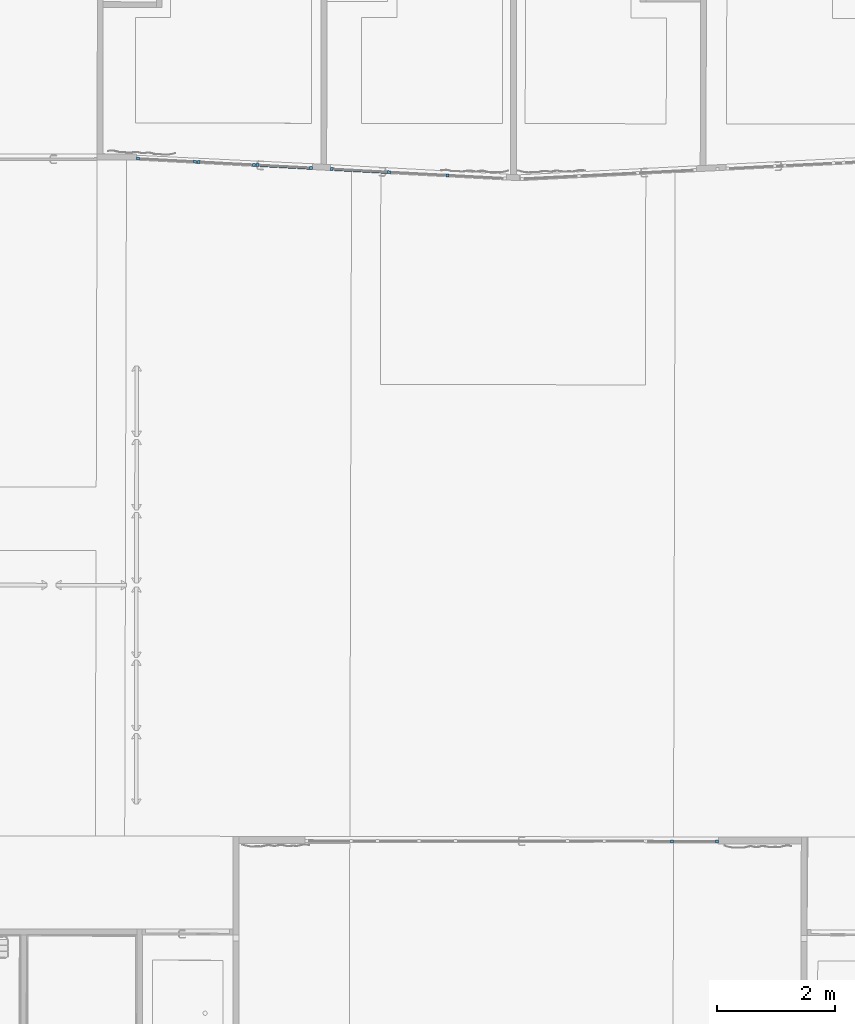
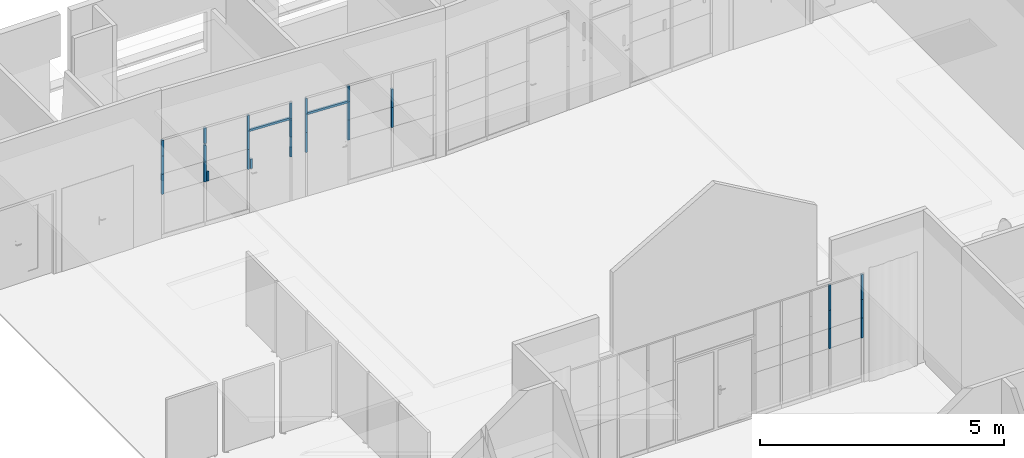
# One storey, part 4 of 43: 33 members, 3 elements without a shape of their own.
"""IFC2X3 building model written with IfcOpenShell, lengths in metres."""

from ifc_helpers import new_model, entity, si_unit, converted_unit, derived_unit, direction, frame, frame_2d, origin, origin_2d_with_axis, place, context, subcontext, project, spatial, rectangle, extrude, source, transform, mapped, material, type_object, type_shapes, element, aggregate, save


model = new_model("IFC2X3")

# Units and contexts
model_context = context("Model", 3, precision=1e-05, world=origin(), true_north=direction((6.123233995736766e-17, 1.0)))
body_context = subcontext(model_context, "Body", "Model", "MODEL_VIEW")
ifc_project = project(units=[si_unit("LENGTHUNIT", "METRE"), si_unit("AREAUNIT", "SQUARE_METRE"), converted_unit("PLANEANGLEUNIT", "DEGREE", entity("IfcPlaneAngleMeasure", 0.017453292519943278), si_unit("PLANEANGLEUNIT", "RADIAN"), dimensions=[0, 0, 0, 0, 0, 0, 0]), derived_unit("THERMALTRANSMITTANCEUNIT", [(si_unit("MASSUNIT", "GRAM", prefix="KILO"), 1), (si_unit("THERMODYNAMICTEMPERATUREUNIT", "KELVIN"), -1), (si_unit("TIMEUNIT", "SECOND"), -3)])], contexts=[model_context])

# Site, building, storey
site_placement = place(None, frame((1253.6752467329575, 2072.143113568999, 91.49999999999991), z_axis=(0.0, 0.0, 1.0), x_axis=(0.7237211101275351, 0.6900925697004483, 0.0)))
site = spatial("IfcSite", under=ifc_project, at=site_placement, Name="Surface", CompositionType="ELEMENT")
building_placement = place(site_placement, origin())
building = spatial("IfcBuilding", under=site, at=building_placement, CompositionType="ELEMENT")
storey_placement = place(building_placement, frame((0.0, 0.0, -4.629999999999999)))
storey = spatial("IfcBuildingStorey", under=building, at=storey_placement, Name="rez de rue -1.10m", CompositionType="ELEMENT", Elevation=-4.629999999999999)

# Curtain wall, members
curtain_wall_type = type_object("IfcCurtainWallType", Name="Mur-rideau:Menuiserie Int", PredefinedType="NOTDEFINED")
curtain_wall_1_placement = place(storey_placement, frame((0.0, 0.0, 4.629999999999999)))
curtain_wall_1 = element("IfcCurtainWall", 1, at=curtain_wall_1_placement, inside=storey, type_object=curtain_wall_type, Name="Mur-rideau:Menuiserie Int", ObjectType="Mur-rideau:Menuiserie Int")
ifc_material_1 = material(Name="OMD_Bois Men Int anthracite")
member_type_1 = type_object("IfcMemberType", Name="Meneau rectangulaire:50x50 Int anthracite", PredefinedType="MULLION", material=ifc_material_1)
shared_shape_1 = source(origin(), body_context, "Body", "SweptSolid", [
    extrude(rectangle(XDim=0.05, YDim=0.05000000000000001, at=origin_2d_with_axis()), frame((-0.025, 0.0, -0.6300000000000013), z_axis=(0.0, 0.0, 1.0), x_axis=(-1.0, 0.0, 0.0)), (0.0, 0.0, 1.0), 0.6300000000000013),
])
type_shapes(member_type_1, [shared_shape_1])
member_1_placement = place(curtain_wall_1_placement, frame((175.6536104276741, -2.9823625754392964, -1.9399999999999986), z_axis=(0.0, 0.0, 1.0), x_axis=(0.7227070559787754, -0.6911544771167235, 0.0)))
member_1 = element("IfcMember", 2, at=member_1_placement, type_object=member_type_1, material=ifc_material_1, Name="Meneau rectangulaire:50x50 Int anthracite", ObjectType="Meneau rectangulaire:50x50 Int anthracite", context=body_context, shape_type="MappedRepresentation", body=[
    mapped(shared_shape_1, transform((0.0, 0.0, 0.0), scale=1.0)),
])
member_type_2 = type_object("IfcMemberType", Name="Meneau rectangulaire:50x50 Int anthracite", PredefinedType="MULLION", material=ifc_material_1)
shared_shape_2 = source(origin(), body_context, "Body", "SweptSolid", [
    extrude(rectangle(XDim=0.05, YDim=0.05, at=origin_2d_with_axis()), frame((-0.025, 0.0, -0.4599999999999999), z_axis=(0.0, 0.0, 1.0), x_axis=(-1.0, 0.0, 0.0)), (0.0, 0.0, 1.0), 0.4599999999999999),
])
type_shapes(member_type_2, [shared_shape_2])
member_2_placement = place(curtain_wall_1_placement, frame((175.6536104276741, -2.9823625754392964, -2.57), z_axis=(0.0, 0.0, 1.0), x_axis=(0.7227070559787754, -0.6911544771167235, 0.0)))
member_2 = element("IfcMember", 3, at=member_2_placement, type_object=member_type_2, material=ifc_material_1, Name="Meneau rectangulaire:50x50 Int anthracite", ObjectType="Meneau rectangulaire:50x50 Int anthracite", context=body_context, shape_type="MappedRepresentation", body=[
    mapped(shared_shape_2, transform((0.0, 0.0, 0.0), scale=1.0)),
])
member_type_3 = type_object("IfcMemberType", Name="Meneau rectangulaire:50x50 Int anthracite", PredefinedType="MULLION", material=ifc_material_1)
shared_shape_3 = source(origin(), body_context, "Body", "SweptSolid", [
    extrude(rectangle(XDim=0.05, YDim=0.05, at=frame_2d((0.0, 1.734723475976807e-18), x_axis=(1.0, 0.0))), frame((0.0, 0.0, -0.6300000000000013), z_axis=(0.0, 0.0, 1.0), x_axis=(-1.0, 0.0, 0.0)), (0.0, 0.0, 1.0), 0.6300000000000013),
])
type_shapes(member_type_3, [shared_shape_3])
member_3_placement = place(curtain_wall_1_placement, frame((175.08518735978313, -2.4387562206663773, -2.57), z_axis=(0.0, 0.0, -1.0), x_axis=(-0.7227070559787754, 0.6911544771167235, 0.0)))
member_3 = element("IfcMember", 4, at=member_3_placement, type_object=member_type_3, material=ifc_material_1, Name="Meneau rectangulaire:50x50 Int anthracite", ObjectType="Meneau rectangulaire:50x50 Int anthracite", context=body_context, shape_type="MappedRepresentation", body=[
    mapped(shared_shape_3, transform((0.0, 0.0, 0.0), scale=1.0)),
])
member_type_4 = type_object("IfcMemberType", Name="Meneau rectangulaire:50x50 Int anthracite", PredefinedType="MULLION", material=ifc_material_1)
shared_shape_4 = source(origin(), body_context, "Body", "SweptSolid", [
    extrude(rectangle(XDim=0.05, YDim=0.05, at=origin_2d_with_axis()), frame((0.0, 0.0, -0.4999999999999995), z_axis=(0.0, 0.0, 1.0), x_axis=(-1.0, 0.0, 0.0)), (0.0, 0.0, 1.0), 0.4999999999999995),
])
type_shapes(member_type_4, [shared_shape_4])
member_4_placement = place(curtain_wall_1_placement, frame((175.08518735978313, -2.4387562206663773, -3.5299999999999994), z_axis=(0.0, 0.0, -1.0), x_axis=(-0.7227070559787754, 0.6911544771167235, 0.0)))
member_4 = element("IfcMember", 5, at=member_4_placement, type_object=member_type_4, material=ifc_material_1, Name="Meneau rectangulaire:50x50 Int anthracite", ObjectType="Meneau rectangulaire:50x50 Int anthracite", context=body_context, shape_type="MappedRepresentation", body=[
    mapped(shared_shape_4, transform((0.0, 0.0, 0.0), scale=1.0)),
])
member_type_5 = type_object("IfcMemberType", Name="Meneau rectangulaire:50x50 Int anthracite", PredefinedType="MULLION", material=ifc_material_1)
shared_shape_5 = source(origin(), body_context, "Body", "SweptSolid", [
    extrude(rectangle(XDim=0.05, YDim=0.05, at=origin_2d_with_axis()), frame((-0.025, 0.0, -0.4999999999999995), z_axis=(0.0, 0.0, 1.0), x_axis=(-1.0, 0.0, 0.0)), (0.0, 0.0, 1.0), 0.4999999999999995),
])
type_shapes(member_type_5, [shared_shape_5])
member_5_placement = place(curtain_wall_1_placement, frame((175.6536104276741, -2.9823625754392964, -3.0300000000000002), z_axis=(0.0, 0.0, 1.0), x_axis=(0.7227070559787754, -0.6911544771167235, 0.0)))
member_5 = element("IfcMember", 6, at=member_5_placement, type_object=member_type_5, material=ifc_material_1, Name="Meneau rectangulaire:50x50 Int anthracite", ObjectType="Meneau rectangulaire:50x50 Int anthracite", context=body_context, shape_type="MappedRepresentation", body=[
    mapped(shared_shape_5, transform((0.0, 0.0, 0.0), scale=1.0)),
])
member_type_6 = type_object("IfcMemberType", Name="Meneau rectangulaire:50x50 Int anthracite", PredefinedType="MULLION", material=ifc_material_1)
shared_shape_6 = source(origin(), body_context, "Body", "SweptSolid", [
    extrude(rectangle(XDim=0.05, YDim=0.05, at=origin_2d_with_axis()), frame((0.0, 0.0, -0.4599999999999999), z_axis=(0.0, 0.0, 1.0), x_axis=(-1.0, 0.0, 0.0)), (0.0, 0.0, 1.0), 0.4599999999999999),
])
type_shapes(member_type_6, [shared_shape_6])
member_6_placement = place(curtain_wall_1_placement, frame((175.08518735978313, -2.4387562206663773, -3.0300000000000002), z_axis=(0.0, 0.0, -1.0), x_axis=(-0.7227070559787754, 0.6911544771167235, 0.0)))
member_6 = element("IfcMember", 7, at=member_6_placement, type_object=member_type_6, material=ifc_material_1, Name="Meneau rectangulaire:50x50 Int anthracite", ObjectType="Meneau rectangulaire:50x50 Int anthracite", context=body_context, shape_type="MappedRepresentation", body=[
    mapped(shared_shape_6, transform((0.0, 0.0, 0.0), scale=1.0)),
])
aggregate(curtain_wall_1, [member_1, member_2, member_3, member_4, member_5, member_6])

curtain_wall_2_placement = place(storey_placement, frame((0.0, 0.0, 4.629999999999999)))
curtain_wall_2 = element("IfcCurtainWall", 8, at=curtain_wall_2_placement, inside=storey, type_object=curtain_wall_type, Name="Mur-rideau:Menuiserie Int", ObjectType="Mur-rideau:Menuiserie Int")
ifc_material_2 = material(Name="OMD_Bois Men Int")
member_type_7 = type_object("IfcMemberType", Name="Meneau rectangulaire:50x50 Int", PredefinedType="MULLION", material=ifc_material_2)
shared_shape_7 = source(origin(), body_context, "Body", "SweptSolid", [
    extrude(rectangle(XDim=0.05, YDim=0.049999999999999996, at=origin_2d_with_axis()), frame((-0.025, 0.0, -0.3900000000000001), z_axis=(0.0, 0.0, 1.0), x_axis=(-1.0, 0.0, 0.0)), (0.0, 0.0, 1.0), 0.3900000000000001),
])
type_shapes(member_type_7, [shared_shape_7])
member_7_placement = place(curtain_wall_2_placement, frame((178.77134837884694, 9.855941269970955, -2.1799999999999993), z_axis=(0.0, 0.0, 1.0), x_axis=(-0.6855443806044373, 0.7280308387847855, 0.0)))
member_7 = element("IfcMember", 9, at=member_7_placement, type_object=member_type_7, material=ifc_material_2, Name="Meneau rectangulaire:50x50 Int", ObjectType="Meneau rectangulaire:50x50 Int", context=body_context, shape_type="MappedRepresentation", body=[
    mapped(shared_shape_7, transform((0.0, 0.0, 0.0), scale=1.0)),
])
member_type_8 = type_object("IfcMemberType", Name="Meneau rectangulaire:50x50 Int", PredefinedType="MULLION", material=ifc_material_2)
shared_shape_8 = source(origin(), body_context, "Body", "SweptSolid", [
    extrude(rectangle(XDim=0.05, YDim=0.05, at=origin_2d_with_axis()), frame((-0.025, 0.0, -0.4599999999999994), z_axis=(0.0, 0.0, 1.0), x_axis=(-1.0, 0.0, 0.0)), (0.0, 0.0, 1.0), 0.4599999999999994),
])
type_shapes(member_type_8, [shared_shape_8])
member_8_placement = place(curtain_wall_2_placement, frame((178.77134837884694, 9.855941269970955, -2.5699999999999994), z_axis=(0.0, 0.0, 1.0), x_axis=(-0.6855443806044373, 0.7280308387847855, 0.0)))
member_8 = element("IfcMember", 10, at=member_8_placement, type_object=member_type_8, material=ifc_material_2, Name="Meneau rectangulaire:50x50 Int", ObjectType="Meneau rectangulaire:50x50 Int", context=body_context, shape_type="MappedRepresentation", body=[
    mapped(shared_shape_8, transform((0.0, 0.0, 0.0), scale=1.0)),
])
member_type_9 = type_object("IfcMemberType", Name="Meneau rectangulaire:50x50 Int", PredefinedType="MULLION", material=ifc_material_2)
shared_shape_9 = source(origin(), body_context, "Body", "SweptSolid", [
    extrude(rectangle(XDim=0.05, YDim=0.05, at=frame_2d((0.0, -1.734723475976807e-18), x_axis=(1.0, 0.0))), frame((0.0, 0.0, -0.3900000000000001), z_axis=(0.0, 0.0, 1.0), x_axis=(-1.0, 0.0, 0.0)), (0.0, 0.0, 1.0), 0.3900000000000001),
])
type_shapes(member_type_9, [shared_shape_9])
member_9_placement = place(curtain_wall_2_placement, frame((179.4568927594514, 9.127910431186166, -2.5699999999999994), z_axis=(0.0, 0.0, -1.0), x_axis=(0.6855443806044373, -0.7280308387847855, 0.0)))
member_9 = element("IfcMember", 11, at=member_9_placement, type_object=member_type_9, material=ifc_material_2, Name="Meneau rectangulaire:50x50 Int", ObjectType="Meneau rectangulaire:50x50 Int", context=body_context, shape_type="MappedRepresentation", body=[
    mapped(shared_shape_9, transform((0.0, 0.0, 0.0), scale=1.0)),
])
member_type_10 = type_object("IfcMemberType", Name="Meneau rectangulaire:50x50 Int", PredefinedType="MULLION", material=ifc_material_2)
shared_shape_10 = source(origin(), body_context, "Body", "SweptSolid", [
    extrude(rectangle(XDim=0.05, YDim=0.05, at=frame_2d((0.0, -1.734723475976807e-18), x_axis=(1.0, 0.0))), frame((0.0, 0.0, -0.9250000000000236), z_axis=(0.0, 0.0, 1.0), x_axis=(-1.0, 0.0, 0.0)), (0.0, 0.0, 1.0), 0.9250000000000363),
])
type_shapes(member_type_10, [shared_shape_10])
member_10_placement = place(curtain_wall_2_placement, frame((179.4397541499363, 9.146111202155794, -2.5699999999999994), z_axis=(0.6855443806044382, -0.7280308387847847, 0.0), x_axis=(0.0, 0.0, 1.0)))
member_10 = element("IfcMember", 12, at=member_10_placement, type_object=member_type_10, material=ifc_material_2, Name="Meneau rectangulaire:50x50 Int", ObjectType="Meneau rectangulaire:50x50 Int", context=body_context, shape_type="MappedRepresentation", body=[
    mapped(shared_shape_10, transform((0.0, 0.0, 0.0), scale=1.0)),
])
member_type_11 = type_object("IfcMemberType", Name="Meneau rectangulaire:50x50 Int", PredefinedType="MULLION", material=ifc_material_2)
shared_shape_11 = source(origin(), body_context, "Body", "SweptSolid", [
    extrude(rectangle(XDim=0.05, YDim=0.05, at=origin_2d_with_axis()), frame((-0.025, 0.0, -0.5), z_axis=(0.0, 0.0, 1.0), x_axis=(-1.0, 0.0, 0.0)), (0.0, 0.0, 1.0), 0.5),
])
type_shapes(member_type_11, [shared_shape_11])
member_11_placement = place(curtain_wall_2_placement, frame((178.77134837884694, 9.855941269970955, -3.029999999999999), z_axis=(0.0, 0.0, 1.0), x_axis=(-0.6855443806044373, 0.7280308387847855, 0.0)))
member_11 = element("IfcMember", 13, at=member_11_placement, type_object=member_type_11, material=ifc_material_2, Name="Meneau rectangulaire:50x50 Int", ObjectType="Meneau rectangulaire:50x50 Int", context=body_context, shape_type="MappedRepresentation", body=[
    mapped(shared_shape_11, transform((0.0, 0.0, 0.0), scale=1.0)),
])
member_type_12 = type_object("IfcMemberType", Name="Meneau rectangulaire:50x50 Int", PredefinedType="MULLION", material=ifc_material_2)
shared_shape_12 = source(origin(), body_context, "Body", "SweptSolid", [
    extrude(rectangle(XDim=0.05, YDim=0.05, at=frame_2d((0.0, 1.734723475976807e-18), x_axis=(1.0, 0.0))), frame((0.0, 0.0, -0.4599999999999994), z_axis=(0.0, 0.0, 1.0), x_axis=(-1.0, 0.0, 0.0)), (0.0, 0.0, 1.0), 0.4599999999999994),
])
type_shapes(member_type_12, [shared_shape_12])
member_12_placement = place(curtain_wall_2_placement, frame((179.4568927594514, 9.127910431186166, -3.029999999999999), z_axis=(0.0, 0.0, -1.0), x_axis=(0.6855443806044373, -0.7280308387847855, 0.0)))
member_12 = element("IfcMember", 14, at=member_12_placement, type_object=member_type_12, material=ifc_material_2, Name="Meneau rectangulaire:50x50 Int", ObjectType="Meneau rectangulaire:50x50 Int", context=body_context, shape_type="MappedRepresentation", body=[
    mapped(shared_shape_12, transform((0.0, 0.0, 0.0), scale=1.0)),
])
member_type_13 = type_object("IfcMemberType", Name="Meneau rectangulaire:50x50 Int", PredefinedType="MULLION", material=ifc_material_2)
shared_shape_13 = source(origin(), body_context, "Body", "SweptSolid", [
    extrude(rectangle(XDim=0.05, YDim=0.05, at=frame_2d((0.0, -1.734723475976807e-18), x_axis=(1.0, 0.0))), frame((0.0, 0.0, -0.5), z_axis=(0.0, 0.0, 1.0), x_axis=(-1.0, 0.0, 0.0)), (0.0, 0.0, 1.0), 0.5),
])
type_shapes(member_type_13, [shared_shape_13])
member_13_placement = place(curtain_wall_2_placement, frame((179.4568927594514, 9.127910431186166, -3.529999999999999), z_axis=(0.0, 0.0, -1.0), x_axis=(0.6855443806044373, -0.7280308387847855, 0.0)))
member_13 = element("IfcMember", 15, at=member_13_placement, type_object=member_type_13, material=ifc_material_2, Name="Meneau rectangulaire:50x50 Int", ObjectType="Meneau rectangulaire:50x50 Int", context=body_context, shape_type="MappedRepresentation", body=[
    mapped(shared_shape_13, transform((0.0, 0.0, 0.0), scale=1.0)),
])
member_14_placement = place(curtain_wall_2_placement, frame((180.1424371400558, 8.39987959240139, -3.529999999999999), z_axis=(0.0, 0.0, -1.0), x_axis=(0.6855443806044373, -0.7280308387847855, 0.0)))
member_14 = element("IfcMember", 16, at=member_14_placement, type_object=member_type_13, material=ifc_material_2, Name="Meneau rectangulaire:50x50 Int", ObjectType="Meneau rectangulaire:50x50 Int", context=body_context, shape_type="MappedRepresentation", body=[
    mapped(shared_shape_13, transform((0.0, 0.0, 0.0), scale=1.0)),
])
member_type_14 = type_object("IfcMemberType", Name="Meneau rectangulaire:50x50 Int", PredefinedType="MULLION", material=ifc_material_2)
shared_shape_14 = source(origin(), body_context, "Body", "SweptSolid", [
    extrude(rectangle(XDim=0.05, YDim=0.05, at=origin_2d_with_axis()), frame((0.0, 0.0, -0.4599999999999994), z_axis=(0.0, 0.0, 1.0), x_axis=(-1.0, 0.0, 0.0)), (0.0, 0.0, 1.0), 0.4599999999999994),
])
type_shapes(member_type_14, [shared_shape_14])
member_15_placement = place(curtain_wall_2_placement, frame((180.1424371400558, 8.39987959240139, -3.029999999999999), z_axis=(0.0, 0.0, -1.0), x_axis=(0.6855443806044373, -0.7280308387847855, 0.0)))
member_15 = element("IfcMember", 17, at=member_15_placement, type_object=member_type_14, material=ifc_material_2, Name="Meneau rectangulaire:50x50 Int", ObjectType="Meneau rectangulaire:50x50 Int", context=body_context, shape_type="MappedRepresentation", body=[
    mapped(shared_shape_14, transform((0.0, 0.0, 0.0), scale=1.0)),
])
aggregate(curtain_wall_2, [member_7, member_8, member_9, member_10, member_11, member_12, member_13, member_14, member_15])

curtain_wall_3_placement = place(storey_placement, frame((0.0, 0.0, 4.629999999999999)))
curtain_wall_3 = element("IfcCurtainWall", 18, at=curtain_wall_3_placement, inside=storey, type_object=curtain_wall_type, Name="Mur-rideau:Menuiserie Int", ObjectType="Mur-rideau:Menuiserie Int")
member_type_15 = type_object("IfcMemberType", Name="Meneau rectangulaire:50x50 Int", PredefinedType="MULLION", material=ifc_material_2)
shared_shape_15 = source(origin(), body_context, "Body", "SweptSolid", [
    extrude(rectangle(XDim=0.05, YDim=0.05, at=origin_2d_with_axis()), frame((-0.025, 0.0, -0.3900000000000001), z_axis=(0.0, 0.0, 1.0), x_axis=(-1.0, 0.0, 0.0)), (0.0, 0.0, 1.0), 0.3900000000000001),
])
type_shapes(member_type_15, [shared_shape_15])
member_16_placement = place(curtain_wall_3_placement, frame((178.56328431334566, 10.076900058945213, -2.1799999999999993), z_axis=(0.0, 0.0, 1.0), x_axis=(0.6855443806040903, -0.7280308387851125, 0.0)))
member_16 = element("IfcMember", 19, at=member_16_placement, type_object=member_type_15, material=ifc_material_2, Name="Meneau rectangulaire:50x50 Int", ObjectType="Meneau rectangulaire:50x50 Int", context=body_context, shape_type="MappedRepresentation", body=[
    mapped(shared_shape_15, transform((0.0, 0.0, 0.0), scale=1.0)),
])
member_type_16 = type_object("IfcMemberType", Name="Meneau rectangulaire:50x50 Int", PredefinedType="MULLION", material=ifc_material_2)
shared_shape_16 = source(origin(), body_context, "Body", "SweptSolid", [
    extrude(rectangle(XDim=0.05, YDim=0.05, at=origin_2d_with_axis()), frame((-0.025, 0.0, -0.3900000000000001), z_axis=(0.0, 0.0, 1.0), x_axis=(-1.0, 0.0, 0.0)), (0.0, 0.0, 1.0), 0.3900000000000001),
])
type_shapes(member_type_16, [shared_shape_16])
member_17_placement = place(curtain_wall_3_placement, frame((176.50665178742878, 12.260991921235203, -2.5699999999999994), z_axis=(0.0, 0.0, -1.0), x_axis=(-0.6855443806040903, 0.7280308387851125, 0.0)))
member_17 = element("IfcMember", 20, at=member_17_placement, type_object=member_type_16, material=ifc_material_2, Name="Meneau rectangulaire:50x50 Int", ObjectType="Meneau rectangulaire:50x50 Int", context=body_context, shape_type="MappedRepresentation", body=[
    mapped(shared_shape_16, transform((0.0, 0.0, 0.0), scale=1.0)),
])
member_type_17 = type_object("IfcMemberType", Name="Meneau rectangulaire:50x50 Int", PredefinedType="MULLION", material=ifc_material_2)
shared_shape_17 = source(origin(), body_context, "Body", "SweptSolid", [
    extrude(rectangle(XDim=0.05, YDim=0.05, at=origin_2d_with_axis()), frame((-0.025, 0.0, -0.4599999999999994), z_axis=(0.0, 0.0, 1.0), x_axis=(-1.0, 0.0, 0.0)), (0.0, 0.0, 1.0), 0.4599999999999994),
])
type_shapes(member_type_17, [shared_shape_17])
member_18_placement = place(curtain_wall_3_placement, frame((178.56328431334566, 10.076900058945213, -2.5699999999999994), z_axis=(0.0, 0.0, 1.0), x_axis=(0.6855443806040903, -0.7280308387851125, 0.0)))
member_18 = element("IfcMember", 21, at=member_18_placement, type_object=member_type_17, material=ifc_material_2, Name="Meneau rectangulaire:50x50 Int", ObjectType="Meneau rectangulaire:50x50 Int", context=body_context, shape_type="MappedRepresentation", body=[
    mapped(shared_shape_17, transform((0.0, 0.0, 0.0), scale=1.0)),
])
member_type_18 = type_object("IfcMemberType", Name="Meneau rectangulaire:50x50 Int", PredefinedType="MULLION", material=ifc_material_2)
shared_shape_18 = source(origin(), body_context, "Body", "SweptSolid", [
    extrude(rectangle(XDim=0.05, YDim=0.05, at=frame_2d((0.0, 1.734723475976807e-18), x_axis=(1.0, 0.0))), frame((0.0, 0.0, -0.9249999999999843), z_axis=(0.0, 0.0, 1.0), x_axis=(-1.0, 0.0, 0.0)), (0.0, 0.0, 1.0), 0.9249999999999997),
])
type_shapes(member_type_18, [shared_shape_18])
member_19_placement = place(curtain_wall_3_placement, frame((177.89487854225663, 10.786730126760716, -2.5699999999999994), z_axis=(-0.6855443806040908, 0.7280308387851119, 0.0), x_axis=(0.0, 0.0, 1.0)))
member_19 = element("IfcMember", 22, at=member_19_placement, type_object=member_type_18, material=ifc_material_2, Name="Meneau rectangulaire:50x50 Int", ObjectType="Meneau rectangulaire:50x50 Int", context=body_context, shape_type="MappedRepresentation", body=[
    mapped(shared_shape_18, transform((0.0, 0.0, 0.0), scale=1.0)),
])
member_type_19 = type_object("IfcMemberType", Name="Meneau rectangulaire:50x50 Int", PredefinedType="MULLION", material=ifc_material_2)
shared_shape_19 = source(origin(), body_context, "Body", "SweptSolid", [
    extrude(rectangle(XDim=0.05, YDim=0.05, at=origin_2d_with_axis()), frame((-0.025, 0.0, -0.4599999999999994), z_axis=(0.0, 0.0, 1.0), x_axis=(-1.0, 0.0, 0.0)), (0.0, 0.0, 1.0), 0.4599999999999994),
])
type_shapes(member_type_19, [shared_shape_19])
member_20_placement = place(curtain_wall_3_placement, frame((176.50665178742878, 12.260991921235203, -3.029999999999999), z_axis=(0.0, 0.0, -1.0), x_axis=(-0.6855443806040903, 0.7280308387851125, 0.0)))
member_20 = element("IfcMember", 23, at=member_20_placement, type_object=member_type_19, material=ifc_material_2, Name="Meneau rectangulaire:50x50 Int", ObjectType="Meneau rectangulaire:50x50 Int", context=body_context, shape_type="MappedRepresentation", body=[
    mapped(shared_shape_19, transform((0.0, 0.0, 0.0), scale=1.0)),
])
member_type_20 = type_object("IfcMemberType", Name="Meneau rectangulaire:50x50 Int", PredefinedType="MULLION", material=ifc_material_2)
shared_shape_20 = source(origin(), body_context, "Body", "SweptSolid", [
    extrude(rectangle(XDim=0.05, YDim=0.05, at=origin_2d_with_axis()), frame((-0.025, 0.0, -0.5), z_axis=(0.0, 0.0, 1.0), x_axis=(-1.0, 0.0, 0.0)), (0.0, 0.0, 1.0), 0.5),
])
type_shapes(member_type_20, [shared_shape_20])
member_21_placement = place(curtain_wall_3_placement, frame((178.56328431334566, 10.076900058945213, -3.029999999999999), z_axis=(0.0, 0.0, 1.0), x_axis=(0.6855443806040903, -0.7280308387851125, 0.0)))
member_21 = element("IfcMember", 24, at=member_21_placement, type_object=member_type_20, material=ifc_material_2, Name="Meneau rectangulaire:50x50 Int", ObjectType="Meneau rectangulaire:50x50 Int", context=body_context, shape_type="MappedRepresentation", body=[
    mapped(shared_shape_20, transform((0.0, 0.0, 0.0), scale=1.0)),
])
member_type_21 = type_object("IfcMemberType", Name="Meneau rectangulaire:50x50 Int", PredefinedType="MULLION", material=ifc_material_2)
shared_shape_21 = source(origin(), body_context, "Body", "SweptSolid", [
    extrude(rectangle(XDim=0.05, YDim=0.05, at=origin_2d_with_axis()), frame((-0.025, 0.0, -0.5), z_axis=(0.0, 0.0, 1.0), x_axis=(-1.0, 0.0, 0.0)), (0.0, 0.0, 1.0), 0.5),
])
type_shapes(member_type_21, [shared_shape_21])
member_22_placement = place(curtain_wall_3_placement, frame((176.50665178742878, 12.260991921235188, -3.529999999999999), z_axis=(0.0, 0.0, -1.0), x_axis=(-0.6855443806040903, 0.7280308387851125, 0.0)))
member_22 = element("IfcMember", 25, at=member_22_placement, type_object=member_type_21, material=ifc_material_2, Name="Meneau rectangulaire:50x50 Int", ObjectType="Meneau rectangulaire:50x50 Int", context=body_context, shape_type="MappedRepresentation", body=[
    mapped(shared_shape_21, transform((0.0, 0.0, 0.0), scale=1.0)),
])
member_type_22 = type_object("IfcMemberType", Name="Meneau rectangulaire:50x50 Int", PredefinedType="MULLION", material=ifc_material_2)
shared_shape_22 = source(origin(), body_context, "Body", "SweptSolid", [
    extrude(rectangle(XDim=0.05, YDim=0.05, at=origin_2d_with_axis()), frame((0.0, 0.0, -0.5), z_axis=(0.0, 0.0, 1.0), x_axis=(-1.0, 0.0, 0.0)), (0.0, 0.0, 1.0), 0.5),
])
type_shapes(member_type_22, [shared_shape_22])
member_23_placement = place(curtain_wall_3_placement, frame((177.19219555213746, 11.53296173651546, -3.529999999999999), z_axis=(0.0, 0.0, -1.0), x_axis=(-0.6855443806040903, 0.7280308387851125, 0.0)))
member_23 = element("IfcMember", 26, at=member_23_placement, type_object=member_type_22, material=ifc_material_2, Name="Meneau rectangulaire:50x50 Int", ObjectType="Meneau rectangulaire:50x50 Int", context=body_context, shape_type="MappedRepresentation", body=[
    mapped(shared_shape_22, transform((0.0, 0.0, 0.0), scale=1.0)),
])
member_24_placement = place(curtain_wall_3_placement, frame((177.87773993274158, 10.804930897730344, -3.529999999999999), z_axis=(0.0, 0.0, -1.0), x_axis=(-0.6855443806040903, 0.7280308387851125, 0.0)))
member_24 = element("IfcMember", 27, at=member_24_placement, type_object=member_type_22, material=ifc_material_2, Name="Meneau rectangulaire:50x50 Int", ObjectType="Meneau rectangulaire:50x50 Int", context=body_context, shape_type="MappedRepresentation", body=[
    mapped(shared_shape_22, transform((0.0, 0.0, 0.0), scale=1.0)),
])
member_type_23 = type_object("IfcMemberType", Name="Meneau rectangulaire:50x50 Int", PredefinedType="MULLION", material=ifc_material_2)
shared_shape_23 = source(origin(), body_context, "Body", "SweptSolid", [
    extrude(rectangle(XDim=0.05, YDim=0.05, at=origin_2d_with_axis()), frame((0.0, 0.0, -0.3900000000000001), z_axis=(0.0, 0.0, 1.0), x_axis=(-1.0, 0.0, 0.0)), (0.0, 0.0, 1.0), 0.3900000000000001),
])
type_shapes(member_type_23, [shared_shape_23])
member_25_placement = place(curtain_wall_3_placement, frame((177.19219555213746, 11.53296173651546, -2.5699999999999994), z_axis=(0.0, 0.0, -1.0), x_axis=(-0.6855443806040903, 0.7280308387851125, 0.0)))
member_25 = element("IfcMember", 28, at=member_25_placement, type_object=member_type_23, material=ifc_material_2, Name="Meneau rectangulaire:50x50 Int", ObjectType="Meneau rectangulaire:50x50 Int", context=body_context, shape_type="MappedRepresentation", body=[
    mapped(shared_shape_23, transform((0.0, 0.0, 0.0), scale=1.0)),
])
member_type_24 = type_object("IfcMemberType", Name="Meneau rectangulaire:50x50 Int", PredefinedType="MULLION", material=ifc_material_2)
shared_shape_24 = source(origin(), body_context, "Body", "SweptSolid", [
    extrude(rectangle(XDim=0.05, YDim=0.05, at=origin_2d_with_axis()), frame((0.0, 0.0, -0.4599999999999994), z_axis=(0.0, 0.0, 1.0), x_axis=(-1.0, 0.0, 0.0)), (0.0, 0.0, 1.0), 0.4599999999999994),
])
type_shapes(member_type_24, [shared_shape_24])
member_26_placement = place(curtain_wall_3_placement, frame((177.87773993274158, 10.804930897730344, -3.029999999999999), z_axis=(0.0, 0.0, -1.0), x_axis=(-0.6855443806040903, 0.7280308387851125, 0.0)))
member_26 = element("IfcMember", 29, at=member_26_placement, type_object=member_type_24, material=ifc_material_2, Name="Meneau rectangulaire:50x50 Int", ObjectType="Meneau rectangulaire:50x50 Int", context=body_context, shape_type="MappedRepresentation", body=[
    mapped(shared_shape_24, transform((0.0, 0.0, 0.0), scale=1.0)),
])
member_type_25 = type_object("IfcMemberType", Name="Meneau rectangulaire:50x50 Int", PredefinedType="MULLION", material=ifc_material_2)
shared_shape_25 = source(origin(), body_context, "Body", "SweptSolid", [
    extrude(rectangle(XDim=0.05, YDim=0.05, at=origin_2d_with_axis()), frame((0.0, 0.0, -0.3900000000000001), z_axis=(0.0, 0.0, 1.0), x_axis=(-1.0, 0.0, 0.0)), (0.0, 0.0, 1.0), 0.3900000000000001),
])
type_shapes(member_type_25, [shared_shape_25])
member_27_placement = place(curtain_wall_3_placement, frame((177.87773993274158, 10.804930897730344, -2.5699999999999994), z_axis=(0.0, 0.0, -1.0), x_axis=(-0.6855443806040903, 0.7280308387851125, 0.0)))
member_27 = element("IfcMember", 30, at=member_27_placement, type_object=member_type_25, material=ifc_material_2, Name="Meneau rectangulaire:50x50 Int", ObjectType="Meneau rectangulaire:50x50 Int", context=body_context, shape_type="MappedRepresentation", body=[
    mapped(shared_shape_25, transform((0.0, 0.0, 0.0), scale=1.0)),
])
member_type_26 = type_object("IfcMemberType", Name="Meneau rectangulaire:50x50 Int", PredefinedType="MULLION", material=ifc_material_2)
shared_shape_26 = source(origin(), body_context, "Body", "SweptSolid", [
    extrude(rectangle(XDim=0.05, YDim=0.05000000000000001, at=origin_2d_with_axis()), frame((-0.025, 0.0, -0.23999999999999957), z_axis=(0.0, 0.0, 1.0), x_axis=(-1.0, 0.0, 0.0)), (0.0, 0.0, 1.0), 0.23999999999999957),
])
type_shapes(member_type_26, [shared_shape_26])
member_28_placement = place(curtain_wall_3_placement, frame((178.56432983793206, 10.075789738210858, -3.529999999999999), z_axis=(0.0, 0.0, -1.0), x_axis=(0.6855443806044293, -0.7280308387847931, 0.0)))
member_28 = element("IfcMember", 31, at=member_28_placement, type_object=member_type_26, material=ifc_material_2, Name="Meneau rectangulaire:50x50 Int", ObjectType="Meneau rectangulaire:50x50 Int", context=body_context, shape_type="MappedRepresentation", body=[
    mapped(shared_shape_26, transform((0.0, 0.0, 0.0), scale=1.0)),
])
member_type_27 = type_object("IfcMemberType", Name="Meneau rectangulaire:50x50 Int", PredefinedType="MULLION", material=ifc_material_2)
shared_shape_27 = source(origin(), body_context, "Body", "SweptSolid", [
    extrude(rectangle(XDim=0.05, YDim=0.05, at=frame_2d((0.0, -1.734723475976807e-18), x_axis=(1.0, 0.0))), frame((0.0, 0.0, -0.23999999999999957), z_axis=(0.0, 0.0, 1.0), x_axis=(-1.0, 0.0, 0.0)), (0.0, 0.0, 1.0), 0.23999999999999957),
])
type_shapes(member_type_27, [shared_shape_27])
member_29_placement = place(curtain_wall_3_placement, frame((177.23440221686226, 11.48813932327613, -3.529999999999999), z_axis=(0.0, 0.0, -1.0), x_axis=(0.6855443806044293, -0.7280308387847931, 0.0)))
member_29 = element("IfcMember", 32, at=member_29_placement, type_object=member_type_27, material=ifc_material_2, Name="Meneau rectangulaire:50x50 Int", ObjectType="Meneau rectangulaire:50x50 Int", context=body_context, shape_type="MappedRepresentation", body=[
    mapped(shared_shape_27, transform((0.0, 0.0, 0.0), scale=1.0)),
])
member_30_placement = place(curtain_wall_3_placement, frame((177.91994659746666, 10.760108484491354, -3.529999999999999), z_axis=(0.0, 0.0, -1.0), x_axis=(0.6855443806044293, -0.7280308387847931, 0.0)))
member_30 = element("IfcMember", 33, at=member_30_placement, type_object=member_type_27, material=ifc_material_2, Name="Meneau rectangulaire:50x50 Int", ObjectType="Meneau rectangulaire:50x50 Int", context=body_context, shape_type="MappedRepresentation", body=[
    mapped(shared_shape_27, transform((0.0, 0.0, 0.0), scale=1.0)),
])
member_type_28 = type_object("IfcMemberType", Name="Meneau rectangulaire:50x50 Int", PredefinedType="MULLION", material=ifc_material_2)
shared_shape_28 = source(origin(), body_context, "Body", "SweptSolid", [
    extrude(rectangle(XDim=0.05, YDim=0.05, at=origin_2d_with_axis()), frame((-0.025, 0.0, -0.4099999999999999), z_axis=(0.0, 0.0, 1.0), x_axis=(-1.0, 0.0, 0.0)), (0.0, 0.0, 1.0), 0.4099999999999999),
])
type_shapes(member_type_28, [shared_shape_28])
member_31_placement = place(curtain_wall_3_placement, frame((178.56432983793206, 10.075789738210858, -3.029999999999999), z_axis=(0.0, 0.0, -1.0), x_axis=(0.6855443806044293, -0.7280308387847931, 0.0)))
member_31 = element("IfcMember", 34, at=member_31_placement, type_object=member_type_28, material=ifc_material_2, Name="Meneau rectangulaire:50x50 Int", ObjectType="Meneau rectangulaire:50x50 Int", context=body_context, shape_type="MappedRepresentation", body=[
    mapped(shared_shape_28, transform((0.0, 0.0, 0.0), scale=1.0)),
])
member_type_29 = type_object("IfcMemberType", Name="Meneau rectangulaire:50x50 Int", PredefinedType="MULLION", material=ifc_material_2)
shared_shape_29 = source(origin(), body_context, "Body", "SweptSolid", [
    extrude(rectangle(XDim=0.05, YDim=0.05, at=origin_2d_with_axis()), frame((-0.025, 0.0, -0.16000000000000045), z_axis=(0.0, 0.0, 1.0), x_axis=(-1.0, 0.0, 0.0)), (0.0, 0.0, 1.0), 0.16000000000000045),
])
type_shapes(member_type_29, [shared_shape_29])
member_32_placement = place(curtain_wall_3_placement, frame((176.50769669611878, 12.259882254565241, -3.029999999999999), z_axis=(0.0, 0.0, 1.0), x_axis=(-0.6855443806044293, 0.7280308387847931, 0.0)))
member_32 = element("IfcMember", 35, at=member_32_placement, type_object=member_type_29, material=ifc_material_2, Name="Meneau rectangulaire:50x50 Int", ObjectType="Meneau rectangulaire:50x50 Int", context=body_context, shape_type="MappedRepresentation", body=[
    mapped(shared_shape_29, transform((0.0, 0.0, 0.0), scale=1.0)),
])
member_type_30 = type_object("IfcMemberType", Name="Meneau rectangulaire:50x50 Int", PredefinedType="MULLION", material=ifc_material_2)
shared_shape_30 = source(origin(), body_context, "Body", "SweptSolid", [
    extrude(rectangle(XDim=0.05, YDim=0.05, at=frame_2d((0.0, 1.734723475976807e-18), x_axis=(1.0, 0.0))), frame((0.0, 0.0, -0.4099999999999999), z_axis=(0.0, 0.0, 1.0), x_axis=(-1.0, 0.0, 0.0)), (0.0, 0.0, 1.0), 0.4099999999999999),
])
type_shapes(member_type_30, [shared_shape_30])
member_33_placement = place(curtain_wall_3_placement, frame((177.1921955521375, 11.53296173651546, -3.029999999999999), z_axis=(0.0, 0.0, -1.0), x_axis=(-0.6855443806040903, 0.7280308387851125, 0.0)))
member_33 = element("IfcMember", 36, at=member_33_placement, type_object=member_type_30, material=ifc_material_2, Name="Meneau rectangulaire:50x50 Int", ObjectType="Meneau rectangulaire:50x50 Int", context=body_context, shape_type="MappedRepresentation", body=[
    mapped(shared_shape_30, transform((0.0, 0.0, 0.0), scale=1.0)),
])
aggregate(curtain_wall_3, [member_16, member_17, member_18, member_19, member_20, member_21, member_28, member_29, member_30, member_31, member_32, member_23, member_22, member_33, member_25, member_26, member_24, member_27])

save(model, "model.ifc")
